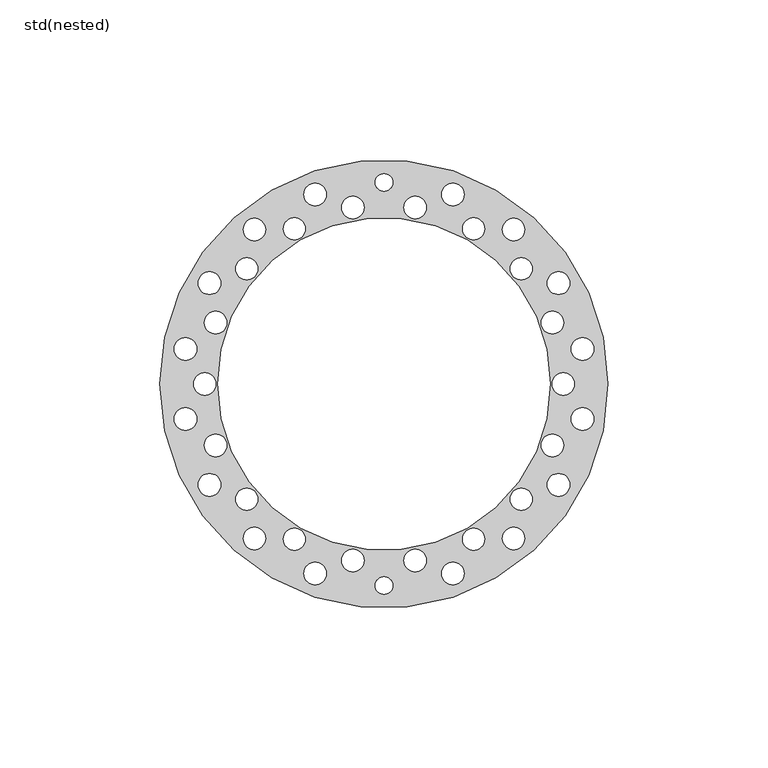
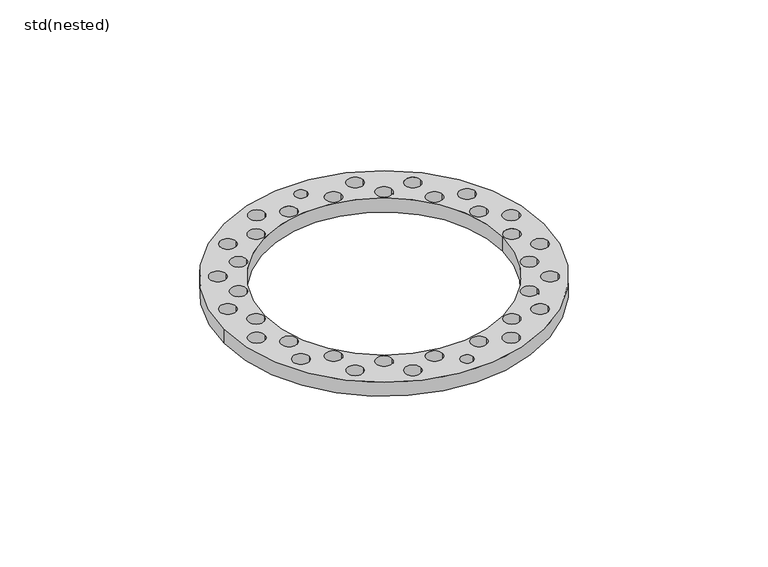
"""IFC4 building model written with IfcOpenShell, lengths in millimetres: sanitary terminal geometry, ZZZ_do not use_PF_ST_UN_strainer_ACO : std(nested)."""

from ifc_helpers import new_model, si_unit, point, frame, frame_2d, origin, origin_2d, place, context, project, spatial, circle_curve, trimmed, segment, composite_curve, outline, extrude, source, transform, mapped, element, save


def std_nested_92b0176e(model_context):
    return source(origin(), model_context, "Body", "SweptSolid", [
        extrude(outline(composite_curve([segment(trimmed(circle_curve(origin_2d(), 70.0), [point((-70.0, 0.0))], [point((70.0, 0.0))], False, "CARTESIAN"), True, "CONTINUOUS"), segment(trimmed(circle_curve(origin_2d(), 70.0), [point((70.0, 0.0))], [point((-70.0, 0.0))], False, "CARTESIAN"), True, "CONTINUOUS")], self_intersect=False), holes=[composite_curve([segment(trimmed(circle_curve(origin_2d(), 52.0), [point((-52.0, 0.0))], [point((52.0, 0.0))], True, "CARTESIAN"), True, "CONTINUOUS"), segment(trimmed(circle_curve(origin_2d(), 52.0), [point((52.0, 0.0))], [point((-52.0, 0.0))], True, "CARTESIAN"), True, "CONTINUOUS")], self_intersect=False), composite_curve([segment(trimmed(circle_curve(frame_2d((56.0, 0.0)), 3.4759946), [point((52.5240054, 0.0))], [point((59.4759946, 0.0))], True, "CARTESIAN"), True, "CONTINUOUS"), segment(trimmed(circle_curve(frame_2d((56.0, 0.0)), 3.4759946), [point((59.4759946, 0.0))], [point((52.5240054, 0.0))], True, "CARTESIAN"), True, "CONTINUOUS")], self_intersect=False), composite_curve([segment(trimmed(circle_curve(frame_2d((52.6227868, 19.153128)), 3.5280986), [point((49.0946881, 19.153128))], [point((56.1508854, 19.153128))], True, "CARTESIAN"), True, "CONTINUOUS"), segment(trimmed(circle_curve(frame_2d((52.6227868, 19.153128)), 3.5280986), [point((56.1508854, 19.153128))], [point((49.0946881, 19.153128))], True, "CARTESIAN"), True, "CONTINUOUS")], self_intersect=False), composite_curve([segment(trimmed(circle_curve(frame_2d((42.8984888, 35.9961061)), 3.4673323), [point((39.4311565, 35.9961061))], [point((46.3658211, 35.9961061))], True, "CARTESIAN"), True, "CONTINUOUS"), segment(trimmed(circle_curve(frame_2d((42.8984888, 35.9961061)), 3.4673323), [point((46.3658211, 35.9961061))], [point((39.4311565, 35.9961061))], True, "CARTESIAN"), True, "CONTINUOUS")], self_intersect=False), composite_curve([segment(trimmed(circle_curve(frame_2d((28.0, 48.4974226)), 3.4543175), [point((24.5456825, 48.4974226))], [point((31.4543175, 48.4974226))], True, "CARTESIAN"), True, "CONTINUOUS"), segment(trimmed(circle_curve(frame_2d((28.0, 48.4974226)), 3.4543175), [point((31.4543175, 48.4974226))], [point((24.5456825, 48.4974226))], True, "CARTESIAN"), True, "CONTINUOUS")], self_intersect=False), composite_curve([segment(trimmed(circle_curve(frame_2d((9.7242979, 55.1492342)), 3.482592), [point((6.241706, 55.1492342))], [point((13.2068899, 55.1492342))], True, "CARTESIAN"), True, "CONTINUOUS"), segment(trimmed(circle_curve(frame_2d((9.7242979, 55.1492342)), 3.482592), [point((13.2068899, 55.1492342))], [point((6.241706, 55.1492342))], True, "CARTESIAN"), True, "CONTINUOUS")], self_intersect=False), composite_curve([segment(trimmed(circle_curve(frame_2d((62.0428884, 10.9398352)), 3.5413128), [point((58.5015756, 10.9398352))], [point((65.5842013, 10.9398352))], True, "CARTESIAN"), True, "CONTINUOUS"), segment(trimmed(circle_curve(frame_2d((62.0428884, 10.9398352)), 3.5413128), [point((65.5842013, 10.9398352))], [point((58.5015756, 10.9398352))], True, "CARTESIAN"), True, "CONTINUOUS")], self_intersect=False), composite_curve([segment(trimmed(circle_curve(frame_2d((54.5596004, 31.5)), 3.5470534), [point((51.012547, 31.5))], [point((58.1066538, 31.5))], True, "CARTESIAN"), True, "CONTINUOUS"), segment(trimmed(circle_curve(frame_2d((54.5596004, 31.5)), 3.5470534), [point((58.1066538, 31.5))], [point((51.012547, 31.5))], True, "CARTESIAN"), True, "CONTINUOUS")], self_intersect=False), composite_curve([segment(trimmed(circle_curve(frame_2d((40.4956194, 48.2607999)), 3.4840506), [point((37.0115688, 48.2607999))], [point((43.97967, 48.2607999))], True, "CARTESIAN"), True, "CONTINUOUS"), segment(trimmed(circle_curve(frame_2d((40.4956194, 48.2607999)), 3.4840506), [point((43.97967, 48.2607999))], [point((37.0115688, 48.2607999))], True, "CARTESIAN"), True, "CONTINUOUS")], self_intersect=False), composite_curve([segment(trimmed(circle_curve(frame_2d((21.547269, 59.2006351)), 3.5080218), [point((18.0392472, 59.2006351))], [point((25.0552909, 59.2006351))], True, "CARTESIAN"), True, "CONTINUOUS"), segment(trimmed(circle_curve(frame_2d((21.547269, 59.2006351)), 3.5080218), [point((25.0552909, 59.2006351))], [point((18.0392472, 59.2006351))], True, "CARTESIAN"), True, "CONTINUOUS")], self_intersect=False), composite_curve([segment(trimmed(circle_curve(frame_2d((0.0, 63.0)), 2.75), [point((-2.75, 63.0))], [point((2.75, 63.0))], True, "CARTESIAN"), True, "CONTINUOUS"), segment(trimmed(circle_curve(frame_2d((0.0, 63.0)), 2.75), [point((2.75, 63.0))], [point((-2.75, 63.0))], True, "CARTESIAN"), True, "CONTINUOUS")], self_intersect=False), composite_curve([segment(trimmed(circle_curve(frame_2d((-56.0, 0.0)), 3.4759946), [point((-52.5240054, 0.0))], [point((-59.4759946, 0.0))], True, "CARTESIAN"), True, "CONTINUOUS"), segment(trimmed(circle_curve(frame_2d((-56.0, 0.0)), 3.4759946), [point((-59.4759946, 0.0))], [point((-52.5240054, 0.0))], True, "CARTESIAN"), True, "CONTINUOUS")], self_intersect=False), composite_curve([segment(trimmed(circle_curve(frame_2d((-52.6227868, 19.153128)), 3.5280986), [point((-49.0946881, 19.153128))], [point((-56.1508854, 19.153128))], True, "CARTESIAN"), True, "CONTINUOUS"), segment(trimmed(circle_curve(frame_2d((-52.6227868, 19.153128)), 3.5280986), [point((-56.1508854, 19.153128))], [point((-49.0946881, 19.153128))], True, "CARTESIAN"), True, "CONTINUOUS")], self_intersect=False), composite_curve([segment(trimmed(circle_curve(frame_2d((-42.8984888, 35.9961061)), 3.4673323), [point((-39.4311565, 35.9961061))], [point((-46.3658211, 35.9961061))], True, "CARTESIAN"), True, "CONTINUOUS"), segment(trimmed(circle_curve(frame_2d((-42.8984888, 35.9961061)), 3.4673323), [point((-46.3658211, 35.9961061))], [point((-39.4311565, 35.9961061))], True, "CARTESIAN"), True, "CONTINUOUS")], self_intersect=False), composite_curve([segment(trimmed(circle_curve(frame_2d((-28.0, 48.4974226)), 3.4543175), [point((-24.5456825, 48.4974226))], [point((-31.4543175, 48.4974226))], True, "CARTESIAN"), True, "CONTINUOUS"), segment(trimmed(circle_curve(frame_2d((-28.0, 48.4974226)), 3.4543175), [point((-31.4543175, 48.4974226))], [point((-24.5456825, 48.4974226))], True, "CARTESIAN"), True, "CONTINUOUS")], self_intersect=False), composite_curve([segment(trimmed(circle_curve(frame_2d((-9.7242979, 55.1492342)), 3.482592), [point((-6.241706, 55.1492342))], [point((-13.2068899, 55.1492342))], True, "CARTESIAN"), True, "CONTINUOUS"), segment(trimmed(circle_curve(frame_2d((-9.7242979, 55.1492342)), 3.482592), [point((-13.2068899, 55.1492342))], [point((-6.241706, 55.1492342))], True, "CARTESIAN"), True, "CONTINUOUS")], self_intersect=False), composite_curve([segment(trimmed(circle_curve(frame_2d((-62.0428884, 10.9398352)), 3.5413128), [point((-58.5015756, 10.9398352))], [point((-65.5842013, 10.9398352))], True, "CARTESIAN"), True, "CONTINUOUS"), segment(trimmed(circle_curve(frame_2d((-62.0428884, 10.9398352)), 3.5413128), [point((-65.5842013, 10.9398352))], [point((-58.5015756, 10.9398352))], True, "CARTESIAN"), True, "CONTINUOUS")], self_intersect=False), composite_curve([segment(trimmed(circle_curve(frame_2d((-54.5596004, 31.5)), 3.5470534), [point((-51.012547, 31.5))], [point((-58.1066538, 31.5))], True, "CARTESIAN"), True, "CONTINUOUS"), segment(trimmed(circle_curve(frame_2d((-54.5596004, 31.5)), 3.5470534), [point((-58.1066538, 31.5))], [point((-51.012547, 31.5))], True, "CARTESIAN"), True, "CONTINUOUS")], self_intersect=False), composite_curve([segment(trimmed(circle_curve(frame_2d((-40.4956194, 48.2607999)), 3.4840506), [point((-37.0115688, 48.2607999))], [point((-43.97967, 48.2607999))], True, "CARTESIAN"), True, "CONTINUOUS"), segment(trimmed(circle_curve(frame_2d((-40.4956194, 48.2607999)), 3.4840506), [point((-43.97967, 48.2607999))], [point((-37.0115688, 48.2607999))], True, "CARTESIAN"), True, "CONTINUOUS")], self_intersect=False), composite_curve([segment(trimmed(circle_curve(frame_2d((-21.547269, 59.2006351)), 3.5080218), [point((-18.0392472, 59.2006351))], [point((-25.0552909, 59.2006351))], True, "CARTESIAN"), True, "CONTINUOUS"), segment(trimmed(circle_curve(frame_2d((-21.547269, 59.2006351)), 3.5080218), [point((-25.0552909, 59.2006351))], [point((-18.0392472, 59.2006351))], True, "CARTESIAN"), True, "CONTINUOUS")], self_intersect=False), composite_curve([segment(trimmed(circle_curve(frame_2d((52.6227868, -19.153128)), 3.5280986), [point((49.0946881, -19.153128))], [point((56.1508854, -19.153128))], True, "CARTESIAN"), True, "CONTINUOUS"), segment(trimmed(circle_curve(frame_2d((52.6227868, -19.153128)), 3.5280986), [point((56.1508854, -19.153128))], [point((49.0946881, -19.153128))], True, "CARTESIAN"), True, "CONTINUOUS")], self_intersect=False), composite_curve([segment(trimmed(circle_curve(frame_2d((42.8984888, -35.9961061)), 3.4673323), [point((39.4311565, -35.9961061))], [point((46.3658211, -35.9961061))], True, "CARTESIAN"), True, "CONTINUOUS"), segment(trimmed(circle_curve(frame_2d((42.8984888, -35.9961061)), 3.4673323), [point((46.3658211, -35.9961061))], [point((39.4311565, -35.9961061))], True, "CARTESIAN"), True, "CONTINUOUS")], self_intersect=False), composite_curve([segment(trimmed(circle_curve(frame_2d((28.0, -48.4974226)), 3.4543175), [point((24.5456825, -48.4974226))], [point((31.4543175, -48.4974226))], True, "CARTESIAN"), True, "CONTINUOUS"), segment(trimmed(circle_curve(frame_2d((28.0, -48.4974226)), 3.4543175), [point((31.4543175, -48.4974226))], [point((24.5456825, -48.4974226))], True, "CARTESIAN"), True, "CONTINUOUS")], self_intersect=False), composite_curve([segment(trimmed(circle_curve(frame_2d((9.7242979, -55.1492342)), 3.482592), [point((6.241706, -55.1492342))], [point((13.2068899, -55.1492342))], True, "CARTESIAN"), True, "CONTINUOUS"), segment(trimmed(circle_curve(frame_2d((9.7242979, -55.1492342)), 3.482592), [point((13.2068899, -55.1492342))], [point((6.241706, -55.1492342))], True, "CARTESIAN"), True, "CONTINUOUS")], self_intersect=False), composite_curve([segment(trimmed(circle_curve(frame_2d((62.0428884, -10.9398352)), 3.5413128), [point((58.5015756, -10.9398352))], [point((65.5842013, -10.9398352))], True, "CARTESIAN"), True, "CONTINUOUS"), segment(trimmed(circle_curve(frame_2d((62.0428884, -10.9398352)), 3.5413128), [point((65.5842013, -10.9398352))], [point((58.5015756, -10.9398352))], True, "CARTESIAN"), True, "CONTINUOUS")], self_intersect=False), composite_curve([segment(trimmed(circle_curve(frame_2d((54.5596004, -31.5)), 3.5470534), [point((51.012547, -31.5))], [point((58.1066538, -31.5))], True, "CARTESIAN"), True, "CONTINUOUS"), segment(trimmed(circle_curve(frame_2d((54.5596004, -31.5)), 3.5470534), [point((58.1066538, -31.5))], [point((51.012547, -31.5))], True, "CARTESIAN"), True, "CONTINUOUS")], self_intersect=False), composite_curve([segment(trimmed(circle_curve(frame_2d((40.4956194, -48.2607999)), 3.4840506), [point((37.0115688, -48.2607999))], [point((43.97967, -48.2607999))], True, "CARTESIAN"), True, "CONTINUOUS"), segment(trimmed(circle_curve(frame_2d((40.4956194, -48.2607999)), 3.4840506), [point((43.97967, -48.2607999))], [point((37.0115688, -48.2607999))], True, "CARTESIAN"), True, "CONTINUOUS")], self_intersect=False), composite_curve([segment(trimmed(circle_curve(frame_2d((21.547269, -59.2006351)), 3.5080218), [point((18.0392472, -59.2006351))], [point((25.0552909, -59.2006351))], True, "CARTESIAN"), True, "CONTINUOUS"), segment(trimmed(circle_curve(frame_2d((21.547269, -59.2006351)), 3.5080218), [point((25.0552909, -59.2006351))], [point((18.0392472, -59.2006351))], True, "CARTESIAN"), True, "CONTINUOUS")], self_intersect=False), composite_curve([segment(trimmed(circle_curve(frame_2d((0.0, -63.0)), 2.75), [point((-2.75, -63.0))], [point((2.75, -63.0))], True, "CARTESIAN"), True, "CONTINUOUS"), segment(trimmed(circle_curve(frame_2d((0.0, -63.0)), 2.75), [point((2.75, -63.0))], [point((-2.75, -63.0))], True, "CARTESIAN"), True, "CONTINUOUS")], self_intersect=False), composite_curve([segment(trimmed(circle_curve(frame_2d((-52.6227868, -19.153128)), 3.5280986), [point((-49.0946881, -19.153128))], [point((-56.1508854, -19.153128))], True, "CARTESIAN"), True, "CONTINUOUS"), segment(trimmed(circle_curve(frame_2d((-52.6227868, -19.153128)), 3.5280986), [point((-56.1508854, -19.153128))], [point((-49.0946881, -19.153128))], True, "CARTESIAN"), True, "CONTINUOUS")], self_intersect=False), composite_curve([segment(trimmed(circle_curve(frame_2d((-42.8984888, -35.9961061)), 3.4673323), [point((-39.4311565, -35.9961061))], [point((-46.3658211, -35.9961061))], True, "CARTESIAN"), True, "CONTINUOUS"), segment(trimmed(circle_curve(frame_2d((-42.8984888, -35.9961061)), 3.4673323), [point((-46.3658211, -35.9961061))], [point((-39.4311565, -35.9961061))], True, "CARTESIAN"), True, "CONTINUOUS")], self_intersect=False), composite_curve([segment(trimmed(circle_curve(frame_2d((-28.0, -48.4974226)), 3.4543175), [point((-24.5456825, -48.4974226))], [point((-31.4543175, -48.4974226))], True, "CARTESIAN"), True, "CONTINUOUS"), segment(trimmed(circle_curve(frame_2d((-28.0, -48.4974226)), 3.4543175), [point((-31.4543175, -48.4974226))], [point((-24.5456825, -48.4974226))], True, "CARTESIAN"), True, "CONTINUOUS")], self_intersect=False), composite_curve([segment(trimmed(circle_curve(frame_2d((-9.7242979, -55.1492342)), 3.482592), [point((-6.241706, -55.1492342))], [point((-13.2068899, -55.1492342))], True, "CARTESIAN"), True, "CONTINUOUS"), segment(trimmed(circle_curve(frame_2d((-9.7242979, -55.1492342)), 3.482592), [point((-13.2068899, -55.1492342))], [point((-6.241706, -55.1492342))], True, "CARTESIAN"), True, "CONTINUOUS")], self_intersect=False), composite_curve([segment(trimmed(circle_curve(frame_2d((-62.0428884, -10.9398352)), 3.5413128), [point((-58.5015756, -10.9398352))], [point((-65.5842013, -10.9398352))], True, "CARTESIAN"), True, "CONTINUOUS"), segment(trimmed(circle_curve(frame_2d((-62.0428884, -10.9398352)), 3.5413128), [point((-65.5842013, -10.9398352))], [point((-58.5015756, -10.9398352))], True, "CARTESIAN"), True, "CONTINUOUS")], self_intersect=False), composite_curve([segment(trimmed(circle_curve(frame_2d((-54.5596004, -31.5)), 3.5470534), [point((-51.012547, -31.5))], [point((-58.1066538, -31.5))], True, "CARTESIAN"), True, "CONTINUOUS"), segment(trimmed(circle_curve(frame_2d((-54.5596004, -31.5)), 3.5470534), [point((-58.1066538, -31.5))], [point((-51.012547, -31.5))], True, "CARTESIAN"), True, "CONTINUOUS")], self_intersect=False), composite_curve([segment(trimmed(circle_curve(frame_2d((-40.4956194, -48.2607999)), 3.4840506), [point((-37.0115688, -48.2607999))], [point((-43.97967, -48.2607999))], True, "CARTESIAN"), True, "CONTINUOUS"), segment(trimmed(circle_curve(frame_2d((-40.4956194, -48.2607999)), 3.4840506), [point((-43.97967, -48.2607999))], [point((-37.0115688, -48.2607999))], True, "CARTESIAN"), True, "CONTINUOUS")], self_intersect=False), composite_curve([segment(trimmed(circle_curve(frame_2d((-21.547269, -59.2006351)), 3.5080218), [point((-18.0392472, -59.2006351))], [point((-25.0552909, -59.2006351))], True, "CARTESIAN"), True, "CONTINUOUS"), segment(trimmed(circle_curve(frame_2d((-21.547269, -59.2006351)), 3.5080218), [point((-25.0552909, -59.2006351))], [point((-18.0392472, -59.2006351))], True, "CARTESIAN"), True, "CONTINUOUS")], self_intersect=False)]), frame((0.0, 0.0, -6.5), z_axis=(0.0, 0.0, 1.0), x_axis=(1.0, 0.0, 0.0)), (0.0, 0.0, 1.0), 6.5),
    ])


if __name__ == "__main__":
    model = new_model("IFC4")
    model_context = context("Model", 3, world=origin())
    ifc_project = project(units=[si_unit("LENGTHUNIT", "METRE", prefix="MILLI")], contexts=[model_context])
    site = spatial("IfcSite", under=ifc_project)
    building = spatial("IfcBuilding", under=site)
    placement = place(None, origin())
    std_nested_shape = std_nested_92b0176e(model_context)
    element("IfcSanitaryTerminal", 1, ObjectType="ZZZ_do not use_PF_ST_UN_strainer_ACO : std(nested)", at=placement, inside=building, context=model_context, shape_type="MappedRepresentation", body=[
        mapped(std_nested_shape, transform((0.0, 0.0, 0.0), x_axis=(1.0, 0.0, 0.0), y_axis=(0.0, 1.0, 0.0), z_axis=(0.0, 0.0, 1.0))),
    ])
    save(model, "model.ifc")
